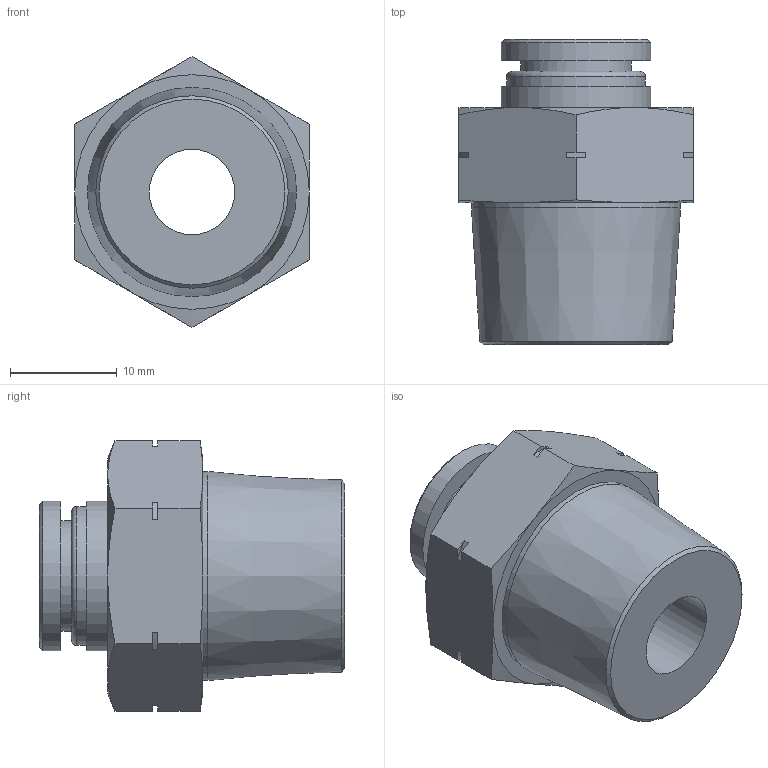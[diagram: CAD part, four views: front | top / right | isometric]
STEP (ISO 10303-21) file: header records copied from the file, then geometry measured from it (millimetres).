
FILE_DESCRIPTION(/* description */ (''),/* implementation_level */ '2;1');
FILE_NAME(/* name */ 'LXH11 0010 N4.stp',/* time_stamp */ '2026-04-19T15:02:24+02:00',/* author */ ('freju'),/* organization */ (''),/* preprocessor_version */ 'ST-DEVELOPER v20.1',/* originating_system */ 'Autodesk Inventor 2026',/* authorisation */ '');
FILE_SCHEMA (('AUTOMOTIVE_DESIGN { 1 0 10303 214 3 1 1 }'));
Length unit declared in the file: millimetre
Products named in the file (1): LXH11 0010 N4
Bounding box: 22 x 28.6 x 25.4 mm (x, y, z)
Volume: 6556.1 mm3; surface area: 3306.6 mm2
Topology: 1 solids, 1 shells, 55 faces, 128 edges, 81 vertices
Faces by surface type: plane 26, cone 15, cylinder 13, torus 1
Full cylindrical faces by diameter (mm): 8 x1, 10 x1, 10.4 x1, 13 x1, 14 x2, 19.602 x1
Entity records: 1587 total; most frequent: CARTESIAN_POINT 313, DIRECTION 262, ORIENTED_EDGE 256, EDGE_CURVE 128, AXIS2_PLACEMENT_3D 102, VERTEX_POINT 81, EDGE_LOOP 63, LINE 58
